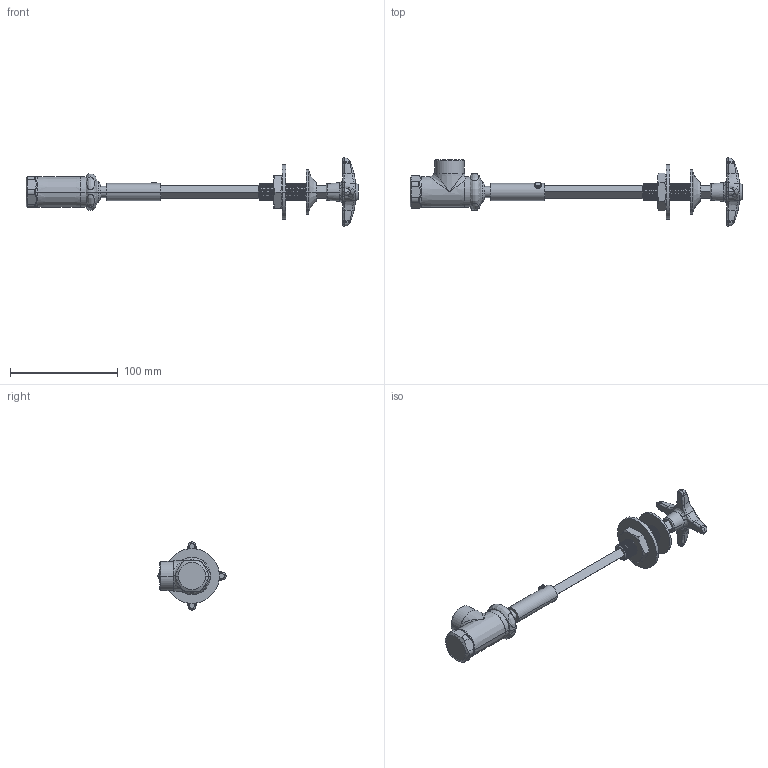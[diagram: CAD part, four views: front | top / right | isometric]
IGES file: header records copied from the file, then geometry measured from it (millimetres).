
Start section:  PTC IGES file: LRV-W5-A2B.igs
Global section: file name: LRV-W5-A2B.igs; native system: Creo Parametric by PTC Inc.; preprocessor: 2014500; author: usch_engrender; organization: Unknown; date: 20160209.134405; units: inch
Bounding box: 307.74 x 63.41 x 63.41 mm (x, y, z)
Surface area: 37888.2 mm2 (no closed solid volume)
Topology: 0 solids, 20 shells, 420 faces, 1113 edges, 708 vertices
Faces by surface type: bspline 243, revolution 177
